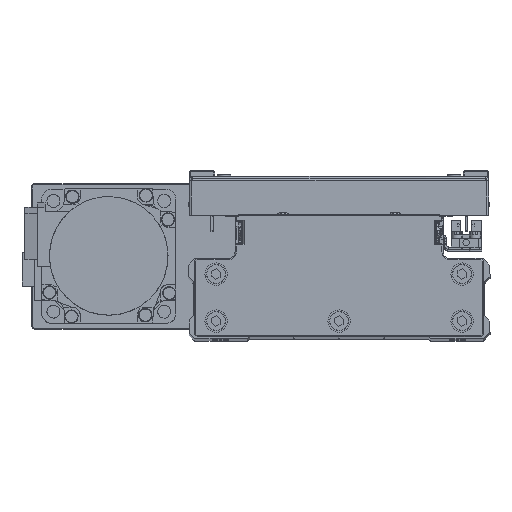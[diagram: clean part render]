
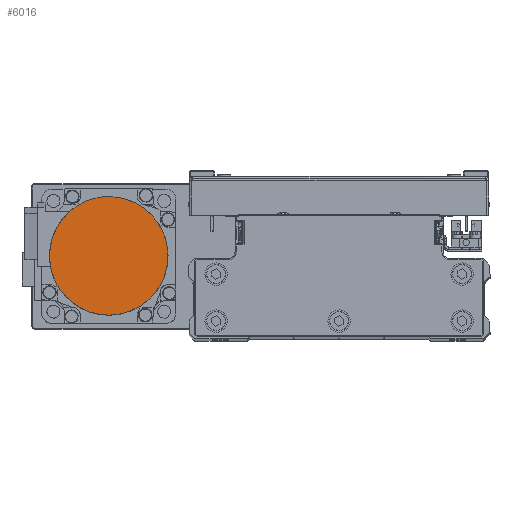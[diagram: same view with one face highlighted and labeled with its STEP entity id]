
A CAD part, top view. The second image highlights one B-rep face of the part: STEP entity #6016.
In plain terms, the highlighted planar face has unit normal (0, 0, 1) as drawn and (0, 0, -1) by its records, which use the part's own axes.
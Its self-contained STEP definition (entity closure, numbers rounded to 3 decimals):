
#119 = B_SPLINE_CURVE_WITH_KNOTS ( 'NONE', 3,
 ( #25426, #38915, #8628, #22115, #35590, #5303, #18790, #32265, #1984, #15476, #28960, #42443, #12168, #25652, #39129, #8841, #22330, #35808, #5525, #19014, #32499, #2220, #15698, #29180, #42659, #12381, #25867, #39347, #9066, #22556, #36037, #5753, #19235, #32721 ),
 .UNSPECIFIED., .F., .F.,
 ( 4, 2, 2, 2, 2, 2, 2, 2, 2, 2, 2, 2, 2, 2, 2, 2, 4 ),
 ( 0., 0.062, 0.125, 0.187, 0.25, 0.312, 0.375, 0.437, 0.5, 0.562, 0.625, 0.687, 0.75, 0.813, 0.875, 0.938, 1. ),
 .UNSPECIFIED. ) ;
#216 = CARTESIAN_POINT ( 'NONE',  ( 26.5, -1.734, -109.7 ) ) ;
#1057 = PLANE ( 'NONE',  #8070 ) ;
#1984 = CARTESIAN_POINT ( 'NONE',  ( 19.965, 17.512, -109.7 ) ) ;
#2220 = CARTESIAN_POINT ( 'NONE',  ( -11.744, 23.819, -109.7 ) ) ;
#3068 = CARTESIAN_POINT ( 'NONE',  ( -25.652, -6.871, -109.7 ) ) ;
#3279 = CARTESIAN_POINT ( 'NONE',  ( -1.734, -26.5, -109.7 ) ) ;
#3511 = CARTESIAN_POINT ( 'NONE',  ( 25.147, -8.539, -109.7 ) ) ;
#3689 = EDGE_LOOP ( 'NONE', ( #16126, #12287 ) ) ;
#5303 = CARTESIAN_POINT ( 'NONE',  ( 23.819, 11.744, -109.7 ) ) ;
#5516 = CARTESIAN_POINT ( 'NONE',  ( 6.871, -25.652, -109.7 ) ) ;
#5525 = CARTESIAN_POINT ( 'NONE',  ( -3.469, 26.329, -109.7 ) ) ;
#5753 = CARTESIAN_POINT ( 'NONE',  ( -26.329, 3.469, -109.7 ) ) ;
#6016 = ADVANCED_FACE ( 'NONE', ( #31338 ), #1057, .F. ) ;
#6104 = CARTESIAN_POINT ( 'NONE',  ( 26.5, 0., -109.7 ) ) ;
#6398 = CARTESIAN_POINT ( 'NONE',  ( -26.5, 0., -109.7 ) ) ;
#6605 = CARTESIAN_POINT ( 'NONE',  ( -8.539, -25.147, -109.7 ) ) ;
#6819 = CARTESIAN_POINT ( 'NONE',  ( 21.07, -16.165, -109.7 ) ) ;
#8070 = AXIS2_PLACEMENT_3D ( 'NONE', #14541, #28024, #41498 ) ;
#8628 = CARTESIAN_POINT ( 'NONE',  ( 26.329, 3.469, -109.7 ) ) ;
#8841 = CARTESIAN_POINT ( 'NONE',  ( 3.469, 26.329, -109.7 ) ) ;
#9066 = CARTESIAN_POINT ( 'NONE',  ( -23.819, 11.744, -109.7 ) ) ;
#9935 = CARTESIAN_POINT ( 'NONE',  ( -16.165, -21.07, -109.7 ) ) ;
#10118 = EDGE_CURVE ( 'NONE', #14696, #13631, #119, .T. ) ;
#10148 = CARTESIAN_POINT ( 'NONE',  ( 16.165, -21.07, -109.7 ) ) ;
#12168 = CARTESIAN_POINT ( 'NONE',  ( 11.744, 23.819, -109.7 ) ) ;
#12287 = ORIENTED_EDGE ( 'NONE', *, *, #31176, .F. ) ;
#12381 = CARTESIAN_POINT ( 'NONE',  ( -19.965, 17.512, -109.7 ) ) ;
#13238 = CARTESIAN_POINT ( 'NONE',  ( -21.07, -16.165, -109.7 ) ) ;
#13474 = CARTESIAN_POINT ( 'NONE',  ( 8.539, -25.147, -109.7 ) ) ;
#13631 = VERTEX_POINT ( 'NONE', #32066 ) ;
#13689 = CARTESIAN_POINT ( 'NONE',  ( 26.5, 0., -109.7 ) ) ;
#14541 = CARTESIAN_POINT ( 'NONE',  ( 0., 0., -109.7 ) ) ;
#14696 = VERTEX_POINT ( 'NONE', #6104 ) ;
#15476 = CARTESIAN_POINT ( 'NONE',  ( 17.512, 19.965, -109.7 ) ) ;
#15698 = CARTESIAN_POINT ( 'NONE',  ( -13.28, 22.998, -109.7 ) ) ;
#16126 = ORIENTED_EDGE ( 'NONE', *, *, #10118, .F. ) ;
#16552 = CARTESIAN_POINT ( 'NONE',  ( -25.147, -8.539, -109.7 ) ) ;
#16777 = CARTESIAN_POINT ( 'NONE',  ( 1.734, -26.5, -109.7 ) ) ;
#17017 = CARTESIAN_POINT ( 'NONE',  ( 25.652, -6.871, -109.7 ) ) ;
#18790 = CARTESIAN_POINT ( 'NONE',  ( 22.998, 13.28, -109.7 ) ) ;
#19014 = CARTESIAN_POINT ( 'NONE',  ( -6.871, 25.652, -109.7 ) ) ;
#19235 = CARTESIAN_POINT ( 'NONE',  ( -26.5, 1.734, -109.7 ) ) ;
#19879 = CARTESIAN_POINT ( 'NONE',  ( -26.5, -1.734, -109.7 ) ) ;
#20088 = CARTESIAN_POINT ( 'NONE',  ( -6.871, -25.652, -109.7 ) ) ;
#20306 = CARTESIAN_POINT ( 'NONE',  ( 22.998, -13.28, -109.7 ) ) ;
#22115 = CARTESIAN_POINT ( 'NONE',  ( 25.652, 6.871, -109.7 ) ) ;
#22330 = CARTESIAN_POINT ( 'NONE',  ( 1.734, 26.5, -109.7 ) ) ;
#22556 = CARTESIAN_POINT ( 'NONE',  ( -25.147, 8.539, -109.7 ) ) ;
#23432 = CARTESIAN_POINT ( 'NONE',  ( -13.28, -22.998, -109.7 ) ) ;
#23632 = CARTESIAN_POINT ( 'NONE',  ( 17.512, -19.965, -109.7 ) ) ;
#25426 = CARTESIAN_POINT ( 'NONE',  ( 26.5, 0., -109.7 ) ) ;
#25652 = CARTESIAN_POINT ( 'NONE',  ( 8.539, 25.147, -109.7 ) ) ;
#25867 = CARTESIAN_POINT ( 'NONE',  ( -21.07, 16.165, -109.7 ) ) ;
#26735 = CARTESIAN_POINT ( 'NONE',  ( -19.965, -17.512, -109.7 ) ) ;
#26962 = CARTESIAN_POINT ( 'NONE',  ( 11.744, -23.819, -109.7 ) ) ;
#28024 = DIRECTION ( 'NONE',  ( 0., 0., 1. ) ) ;
#28960 = CARTESIAN_POINT ( 'NONE',  ( 16.165, 21.07, -109.7 ) ) ;
#29180 = CARTESIAN_POINT ( 'NONE',  ( -16.165, 21.07, -109.7 ) ) ;
#29919 = B_SPLINE_CURVE_WITH_KNOTS ( 'NONE', 3,
 ( #6398, #19879, #33358, #3068, #16552, #30033, #43522, #13238, #26735, #40216, #9935, #23432, #36889, #6605, #20088, #33571, #3279, #16777, #30259, #5516, #13474, #26962, #40436, #10148, #23632, #37099, #6819, #20306, #33793, #3511, #17017, #30489, #216, #13689 ),
 .UNSPECIFIED., .F., .F.,
 ( 4, 2, 2, 2, 2, 2, 2, 2, 2, 2, 2, 2, 2, 2, 2, 2, 4 ),
 ( 0., 0.063, 0.125, 0.188, 0.25, 0.312, 0.375, 0.437, 0.5, 0.562, 0.625, 0.687, 0.75, 0.813, 0.875, 0.938, 1. ),
 .UNSPECIFIED. ) ;
#30033 = CARTESIAN_POINT ( 'NONE',  ( -23.819, -11.744, -109.7 ) ) ;
#30259 = CARTESIAN_POINT ( 'NONE',  ( 3.469, -26.329, -109.7 ) ) ;
#30489 = CARTESIAN_POINT ( 'NONE',  ( 26.329, -3.469, -109.7 ) ) ;
#31176 = EDGE_CURVE ( 'NONE', #13631, #14696, #29919, .T. ) ;
#31338 = FACE_OUTER_BOUND ( 'NONE', #3689, .T. ) ;
#32066 = CARTESIAN_POINT ( 'NONE',  ( -26.5, 0., -109.7 ) ) ;
#32265 = CARTESIAN_POINT ( 'NONE',  ( 21.07, 16.165, -109.7 ) ) ;
#32499 = CARTESIAN_POINT ( 'NONE',  ( -8.539, 25.147, -109.7 ) ) ;
#32721 = CARTESIAN_POINT ( 'NONE',  ( -26.5, 0., -109.7 ) ) ;
#33358 = CARTESIAN_POINT ( 'NONE',  ( -26.329, -3.469, -109.7 ) ) ;
#33571 = CARTESIAN_POINT ( 'NONE',  ( -3.469, -26.329, -109.7 ) ) ;
#33793 = CARTESIAN_POINT ( 'NONE',  ( 23.819, -11.744, -109.7 ) ) ;
#35590 = CARTESIAN_POINT ( 'NONE',  ( 25.147, 8.539, -109.7 ) ) ;
#35808 = CARTESIAN_POINT ( 'NONE',  ( -1.734, 26.5, -109.7 ) ) ;
#36037 = CARTESIAN_POINT ( 'NONE',  ( -25.652, 6.871, -109.7 ) ) ;
#36889 = CARTESIAN_POINT ( 'NONE',  ( -11.744, -23.819, -109.7 ) ) ;
#37099 = CARTESIAN_POINT ( 'NONE',  ( 19.965, -17.512, -109.7 ) ) ;
#38915 = CARTESIAN_POINT ( 'NONE',  ( 26.5, 1.734, -109.7 ) ) ;
#39129 = CARTESIAN_POINT ( 'NONE',  ( 6.871, 25.652, -109.7 ) ) ;
#39347 = CARTESIAN_POINT ( 'NONE',  ( -22.998, 13.28, -109.7 ) ) ;
#40216 = CARTESIAN_POINT ( 'NONE',  ( -17.512, -19.965, -109.7 ) ) ;
#40436 = CARTESIAN_POINT ( 'NONE',  ( 13.28, -22.998, -109.7 ) ) ;
#41498 = DIRECTION ( 'NONE',  ( 1., 0., 0. ) ) ;
#42443 = CARTESIAN_POINT ( 'NONE',  ( 13.28, 22.998, -109.7 ) ) ;
#42659 = CARTESIAN_POINT ( 'NONE',  ( -17.512, 19.965, -109.7 ) ) ;
#43522 = CARTESIAN_POINT ( 'NONE',  ( -22.998, -13.28, -109.7 ) ) ;
